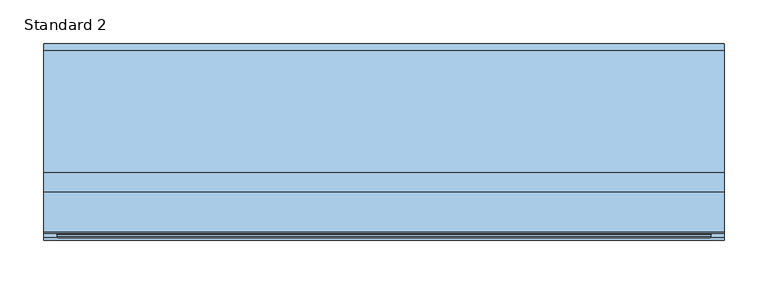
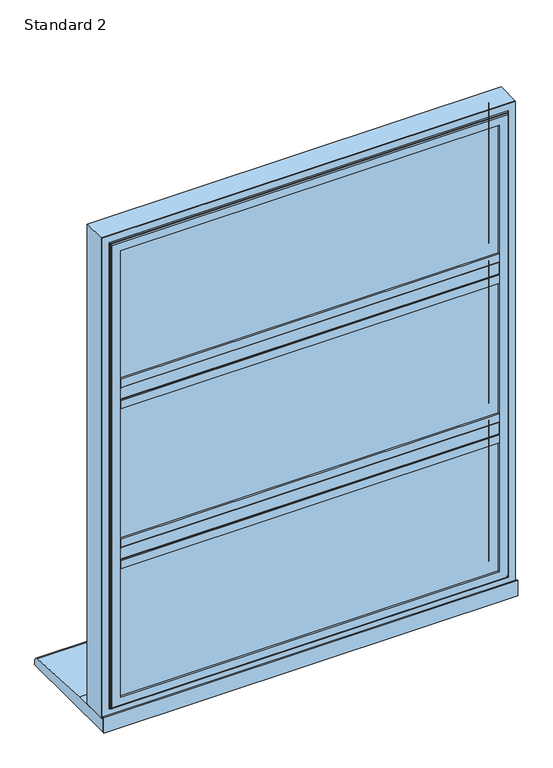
"""IFC4 building model written with IfcOpenShell, lengths in millimetres: window geometry, SMARTS_AlithermHeritage : Standard 2."""

from ifc_helpers import new_model, si_unit, point, frame, frame_2d, origin, place, context, project, spatial, polyline, circle_curve, ellipse_curve, trimmed, segment, composite_curve, outline, extrude, faceted_brep, source, transform, mapped, element, save
from ifc_brep_helpers import plane_surface, cylinder_surface, revolved_surface, advanced_brep


def standard_2_651a060c(model_context):
    return source(origin(), model_context, "Body", "SolidModel", [
        extrude(outline(polyline([(372.3058544, 95.2798432), (372.3058544, 47.279476), (-372.3058544, 47.279476), (-372.3058544, 95.2798432), (372.3058544, 95.2798432)])), frame((0.0, 0.0, 939.6391878), z_axis=(0.0, 0.0, 1.0), x_axis=(1.0, 0.0, 0.0)), (0.0, 0.0, 1.0), 27.3882911),
        extrude(outline(composite_curve([segment(polyline([(47.279476, 924.3333333), (43.2798432, 924.3333333), (43.2798432, 940.3333333)]), True, "CONTINUOUS"), segment(trimmed(circle_curve(frame_2d((44.2798432, 940.3333333)), 1.0), [point((43.2798432, 940.3333333))], [point((44.2798432, 941.3333333))], False, "CARTESIAN"), True, "CONTINUOUS"), segment(polyline([(44.2798432, 941.3333333), (45.7798432, 941.3333333), (45.7798432, 965.3333333), (44.2798432, 965.3333333)]), True, "CONTINUOUS"), segment(trimmed(circle_curve(frame_2d((44.2798432, 966.3333333)), 1.0), [point((44.2798432, 965.3333333))], [point((43.2798432, 966.3333333))], False, "CARTESIAN"), True, "CONTINUOUS"), segment(polyline([(43.2798432, 966.3333333), (43.2798432, 982.3333333), (47.279476, 982.3333333), (47.279476, 924.3333333)]), True, "CONTINUOUS")], self_intersect=False)), frame((-357.0, 0.0, 0.0), z_axis=(1.0, 0.0, 0.0), x_axis=(0.0, 1.0, 0.0)), (0.0, 0.0, 1.0), 714.0),
        extrude(outline(polyline([(372.3058544, 95.2798432), (372.3058544, 47.279476), (-372.3058544, 47.279476), (-372.3058544, 95.2798432), (372.3058544, 95.2798432)])), frame((0.0, 0.0, 1257.9725211), z_axis=(0.0, 0.0, 1.0), x_axis=(1.0, 0.0, 0.0)), (0.0, 0.0, 1.0), 27.3882911),
        extrude(outline(composite_curve([segment(polyline([(47.279476, 1242.6666667), (43.2798432, 1242.6666667), (43.2798432, 1258.6666667)]), True, "CONTINUOUS"), segment(trimmed(circle_curve(frame_2d((44.2798432, 1258.6666667)), 1.0), [point((43.2798432, 1258.6666667))], [point((44.2798432, 1259.6666667))], False, "CARTESIAN"), True, "CONTINUOUS"), segment(polyline([(44.2798432, 1259.6666667), (45.7798432, 1259.6666667), (45.7798432, 1283.6666667), (44.2798432, 1283.6666667)]), True, "CONTINUOUS"), segment(trimmed(circle_curve(frame_2d((44.2798432, 1284.6666667)), 1.0), [point((44.2798432, 1283.6666667))], [point((43.2798432, 1284.6666667))], False, "CARTESIAN"), True, "CONTINUOUS"), segment(polyline([(43.2798432, 1284.6666667), (43.2798432, 1300.6666667), (47.279476, 1300.6666667), (47.279476, 1242.6666667)]), True, "CONTINUOUS")], self_intersect=False)), frame((-357.0, 0.0, 0.0), z_axis=(1.0, 0.0, 0.0), x_axis=(0.0, 1.0, 0.0)), (0.0, 0.0, 1.0), 714.0),
        extrude(outline(polyline([(-367.0, 75.2798432), (367.0, 75.2798432), (367.0, 71.2798432), (-367.0, 71.2798432), (-367.0, 75.2798432)])), frame((0.0, 0.0, 658.0), z_axis=(0.0, 0.0, 1.0), x_axis=(1.0, 0.0, 0.0)), (0.0, 0.0, 1.0), 276.3333333),
        extrude(outline(polyline([(-367.0, 55.2798432), (367.0, 55.2798432), (367.0, 51.2798432), (-367.0, 51.2798432), (-367.0, 55.2798432)])), frame((0.0, 0.0, 658.0), z_axis=(0.0, 0.0, 1.0), x_axis=(1.0, 0.0, 0.0)), (0.0, 0.0, 1.0), 276.3333333),
        extrude(outline(polyline([(934.3333333, -367.0), (658.0, -367.0), (658.0, 367.0), (934.3333333, 367.0), (934.3333333, -367.0)]), holes=[polyline([(924.3333333, 357.0), (668.0, 357.0), (668.0, -357.0), (924.3333333, -357.0), (924.3333333, 357.0)])]), frame((0.0, 55.2798432, 0.0), z_axis=(0.0, 1.0, 0.0), x_axis=(0.0, 0.0, 1.0)), (0.0, 0.0, 1.0), 16.0),
        faceted_brep([(366.8148849, 95.2798432, 934.1482182), (357.0, 78.2798098, 924.3333333), (-357.0, 78.2798098, 924.3333333), (-366.8148849, 95.2798432, 934.1482182), (372.3702676, 78.2798098, 939.7036009), (372.3702676, 95.2798432, 939.7036009), (-372.3702676, 95.2798432, 939.7036009), (-372.3702676, 78.2798098, 939.7036009), (-372.3702676, 78.2798098, 652.6297324), (-372.3702676, 95.2798432, 652.6297324), (372.3702676, 95.2798432, 652.6297324), (372.3702676, 78.2798098, 652.6297324), (-366.8148849, 95.2798432, 658.1851151), (366.8148849, 95.2798432, 658.1851151), (357.0, 78.2798098, 668.0), (-357.0, 78.2798098, 668.0)], [[[0, 1, 2, 3]], [[4, 5, 6, 7]], [[8, 9, 10, 11]], [[5, 10, 9, 6], [3, 12, 13, 0]], [[7, 8, 11, 4], [1, 14, 15, 2]], [[3, 2, 15, 12]], [[7, 6, 9, 8]], [[12, 15, 14, 13]], [[13, 14, 1, 0]], [[11, 10, 5, 4]]]),
        extrude(outline(polyline([(-367.0, 75.2798432), (367.0, 75.2798432), (367.0, 71.2798432), (-367.0, 71.2798432), (-367.0, 75.2798432)])), frame((0.0, 0.0, 972.3333333), z_axis=(0.0, 0.0, 1.0), x_axis=(1.0, 0.0, 0.0)), (0.0, 0.0, 1.0), 280.3333333),
        extrude(outline(polyline([(-367.0, 55.2798432), (367.0, 55.2798432), (367.0, 51.2798432), (-367.0, 51.2798432), (-367.0, 55.2798432)])), frame((0.0, 0.0, 972.3333333), z_axis=(0.0, 0.0, 1.0), x_axis=(1.0, 0.0, 0.0)), (0.0, 0.0, 1.0), 280.3333333),
        extrude(outline(polyline([(1252.6666667, -367.0), (972.3333333, -367.0), (972.3333333, 367.0), (1252.6666667, 367.0), (1252.6666667, -367.0)]), holes=[polyline([(1242.6666667, 357.0), (982.3333333, 357.0), (982.3333333, -357.0), (1242.6666667, -357.0), (1242.6666667, 357.0)])]), frame((0.0, 55.2798432, 0.0), z_axis=(0.0, 1.0, 0.0), x_axis=(0.0, 0.0, 1.0)), (0.0, 0.0, 1.0), 16.0),
        faceted_brep([(366.8148849, 95.2798432, 1252.4815515), (357.0, 78.2798098, 1242.6666667), (-357.0, 78.2798098, 1242.6666667), (-366.8148849, 95.2798432, 1252.4815515), (372.3702676, 78.2798098, 1258.0369343), (372.3702676, 95.2798432, 1258.0369343), (-372.3702676, 95.2798432, 1258.0369343), (-372.3702676, 78.2798098, 1258.0369343), (-372.3702676, 78.2798098, 966.9630657), (-372.3702676, 95.2798432, 966.9630657), (372.3702676, 95.2798432, 966.9630657), (372.3702676, 78.2798098, 966.9630657), (-366.8148849, 95.2798432, 972.5184485), (366.8148849, 95.2798432, 972.5184485), (357.0, 78.2798098, 982.3333333), (-357.0, 78.2798098, 982.3333333)], [[[0, 1, 2, 3]], [[4, 5, 6, 7]], [[8, 9, 10, 11]], [[5, 10, 9, 6], [3, 12, 13, 0]], [[7, 8, 11, 4], [1, 14, 15, 2]], [[3, 2, 15, 12]], [[7, 6, 9, 8]], [[12, 15, 14, 13]], [[13, 14, 1, 0]], [[11, 10, 5, 4]]]),
        extrude(outline(polyline([(1590.0, 390.0), (1590.0, -390.0), (635.0, -390.0), (635.0, 390.0), (1590.0, 390.0)]), holes=[polyline([(652.7000182, 372.2999818), (652.7000182, -372.2999818), (1572.2999818, -372.2999818), (1572.2999818, 372.2999818), (652.7000182, 372.2999818)])]), frame((0.0, 50.279857, 0.0), z_axis=(0.0, 1.0, 0.0), x_axis=(0.0, 0.0, 1.0)), (0.0, 0.0, 1.0), 44.9999962),
        advanced_brep(
        [(357.0, 43.2798432, 1557.0), (357.0, 47.2798432, 1557.0), (357.0, 47.2798432, 668.0), (357.0, 43.2798432, 668.0), (390.0, 50.279857, 1590.0), (390.0, 48.279857, 1590.0), (390.0, 48.279857, 635.0), (390.0, 50.279857, 635.0), (372.4999818, 43.2798432, 1572.4999818), (-372.4999818, 43.2798432, 1572.4999818), (-372.4999818, 43.2798432, 652.5000182), (372.4999818, 43.2798432, 652.5000182), (-357.0, 43.2798432, 668.0), (-357.0, 43.2798432, 1557.0), (-390.0, 50.279857, 1590.0), (-390.0, 48.279857, 1590.0), (-390.0, 50.279857, 635.0), (372.2999818, 50.279857, 1572.2999818), (-372.2999818, 50.279857, 1572.2999818), (-372.2999818, 50.279857, 652.7000182), (372.2999818, 50.279857, 652.7000182), (-357.0, 47.2798432, 1557.0), (-357.0, 47.2798432, 668.0), (-390.0, 48.279857, 635.0), (-372.2999818, 47.2798432, 1572.2999818), (372.2999818, 47.2798432, 1572.2999818), (372.2999818, 47.2798432, 652.7000182), (374.4999818, 46.779857, 650.5000182), (374.4999818, 45.2798432, 650.5000182), (-374.4999818, 45.2798432, 650.5000182), (-374.4999818, 46.779857, 650.5000182), (374.4999818, 46.779857, 1574.4999818), (374.4999818, 45.2798432, 1574.4999818), (-372.2999818, 47.2798432, 652.7000182), (-374.4999818, 45.2798432, 1574.4999818), (-374.4999818, 46.779857, 1574.4999818), (375.9999818, 48.279857, 1575.9999818), (375.9999818, 48.279857, 649.0000182), (-375.9999818, 48.279857, 649.0000182), (-375.9999818, 48.279857, 1575.9999818)],
        [
            (0, 1),
            (1, 2),
            (2, 3),
            (3, 0),
            (4, 5),
            (5, 6),
            (6, 7),
            (7, 4),
            (8, 9),
            (9, 10),
            (10, 11),
            (11, 8),
            (3, 12),
            (12, 13),
            (13, 0),
            (14, 15),
            (15, 5),
            (4, 14),
            (7, 16),
            (16, 14),
            (17, 18),
            (18, 19),
            (19, 20),
            (20, 17),
            (13, 21),
            (21, 1),
            (2, 22),
            (22, 12),
            (22, 21),
            (6, 23),
            (23, 16),
            (23, 15),
            (24, 18),
            (17, 25),
            (25, 24),
            (20, 26),
            (26, 25),
            (27, 28),
            (28, 29),
            (29, 30),
            (30, 27),
            (31, 32),
            (32, 28),
            (27, 31),
            (19, 33),
            (33, 26),
            (24, 33),
            (29, 34),
            (34, 35),
            (35, 30),
            (34, 32),
            (31, 35),
            (36, 31, ellipse_curve(frame((375.9999818, 46.779857, 1575.9999818), z_axis=(-0.7071067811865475, 0.0, 0.7071067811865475), x_axis=(-0.7071067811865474, 0.0, -0.7071067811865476)), 2.1213203, 1.5)),
            (27, 37, ellipse_curve(frame((375.9999818, 46.779857, 649.0000182), z_axis=(-0.7071067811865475, 0.0, -0.7071067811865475), x_axis=(0.7071067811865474, 0.0, -0.7071067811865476)), 2.1213203, 1.5)),
            (37, 36),
            (30, 38, ellipse_curve(frame((-375.9999818, 46.779857, 649.0000182), z_axis=(-0.7071067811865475, 0.0, 0.7071067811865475), x_axis=(-0.7071067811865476, 0.0, -0.7071067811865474)), 2.1213203, 1.5)),
            (38, 37),
            (35, 39, ellipse_curve(frame((-375.9999818, 46.779857, 1575.9999818), z_axis=(0.7071067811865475, 0.0, 0.7071067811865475), x_axis=(-0.7071067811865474, 0.0, 0.7071067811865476)), 2.1213203, 1.5)),
            (39, 38),
            (36, 39),
            (32, 8, ellipse_curve(frame((372.4999818, 45.2798432, 1572.4999818), z_axis=(0.7071067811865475, 0.0, -0.7071067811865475), x_axis=(0.7071067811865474, 0.0, 0.7071067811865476)), 2.8284271, 2.0)),
            (11, 28, ellipse_curve(frame((372.4999818, 45.2798432, 652.5000182), z_axis=(0.7071067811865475, 0.0, 0.7071067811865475), x_axis=(-0.7071067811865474, 0.0, 0.7071067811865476)), 2.8284271, 2.0)),
            (10, 29, ellipse_curve(frame((-372.4999818, 45.2798432, 652.5000182), z_axis=(0.7071067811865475, 0.0, -0.7071067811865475), x_axis=(0.7071067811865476, 0.0, 0.7071067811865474)), 2.8284271, 2.0)),
            (9, 34, ellipse_curve(frame((-372.4999818, 45.2798432, 1572.4999818), z_axis=(-0.7071067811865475, 0.0, -0.7071067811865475), x_axis=(0.7071067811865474, 0.0, -0.7071067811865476)), 2.8284271, 2.0)),
        ],
        [
            plane_surface(frame((357.0, 47.2798432, 1557.0), z_axis=(-1.0, 0.0, 0.0), x_axis=(0.0, 0.0, -1.0))),
            plane_surface(frame((390.0, 48.279857, 1590.0), z_axis=(1.0, 0.0, 0.0), x_axis=(0.0, 0.0, -1.0))),
            plane_surface(frame((-357.0, 43.2798432, 1557.0), z_axis=(0.0, -1.0, 0.0), x_axis=(1.0, 0.0, 0.0))),
            plane_surface(frame((-390.0, 48.279857, 1590.0), z_axis=(0.0, 0.0, 1.0), x_axis=(1.0, 0.0, 0.0))),
            plane_surface(frame((-390.0, 50.279857, 1590.0), z_axis=(0.0, 1.0, 0.0), x_axis=(1.0, 0.0, 0.0))),
            plane_surface(frame((-357.0, 47.2798432, 1557.0), z_axis=(0.0, 0.0, -1.0), x_axis=(1.0, 0.0, 0.0))),
            plane_surface(frame((357.0, 47.2798432, 668.0), z_axis=(0.0, 0.0, 1.0), x_axis=(-1.0, 0.0, 0.0))),
            plane_surface(frame((-357.0, 47.2798432, 668.0), z_axis=(1.0, 0.0, 0.0), x_axis=(0.0, 0.0, 1.0))),
            plane_surface(frame((390.0, 48.279857, 635.0), z_axis=(0.0, 0.0, -1.0), x_axis=(-1.0, 0.0, 0.0))),
            plane_surface(frame((-390.0, 48.279857, 635.0), z_axis=(-1.0, 0.0, 0.0), x_axis=(0.0, 0.0, 1.0))),
            plane_surface(frame((-372.2999818, 50.279857, 1572.2999818), z_axis=(0.0, 0.0, -1.0), x_axis=(1.0, 0.0, 0.0))),
            plane_surface(frame((372.2999818, 50.279857, 1572.2999818), z_axis=(-1.0, 0.0, 0.0), x_axis=(0.0, 0.0, -1.0))),
            plane_surface(frame((374.4999818, 45.2798432, 650.5000182), z_axis=(0.0, 0.0, -1.0), x_axis=(-1.0, 0.0, 0.0))),
            plane_surface(frame((374.4999818, 45.2798432, 1574.4999818), z_axis=(1.0, 0.0, 0.0), x_axis=(0.0, 0.0, -1.0))),
            plane_surface(frame((372.2999818, 50.279857, 652.7000182), z_axis=(0.0, 0.0, 1.0), x_axis=(-1.0, 0.0, 0.0))),
            plane_surface(frame((-372.2999818, 50.279857, 652.7000182), z_axis=(1.0, 0.0, 0.0), x_axis=(0.0, 0.0, 1.0))),
            plane_surface(frame((-374.4999818, 45.2798432, 650.5000182), z_axis=(-1.0, 0.0, 0.0), x_axis=(0.0, 0.0, 1.0))),
            plane_surface(frame((-372.2999818, 47.2798432, 1572.2999818), z_axis=(0.0, 1.0, 0.0), x_axis=(1.0, 0.0, 0.0))),
            plane_surface(frame((-374.4999818, 45.2798432, 1574.4999818), z_axis=(0.0, 0.0, 1.0), x_axis=(1.0, 0.0, 0.0))),
            revolved_surface(polyline([(374.4999818, 46.779857, 647.5000182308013), (374.4999818, 46.779857, 1577.4999817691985)]), (375.9999818, 46.779857, 1590.0), (0.0, 0.0, -1.0)),
            revolved_surface(polyline([(-377.4999817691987, 46.779857, 650.5000182), (377.49998176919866, 46.779857, 650.5000182)]), (390.0, 46.779857, 649.0000182), (-1.0, 0.0, 0.0)),
            revolved_surface(polyline([(-374.4999818, 46.779857, 1577.4999817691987), (-374.4999818, 46.779857, 647.5000182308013)]), (-375.9999818, 46.779857, 635.0), (0.0, 0.0, 1.0)),
            revolved_surface(polyline([(377.4999817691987, 46.779857, 1574.4999818), (-377.49998176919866, 46.779857, 1574.4999818)]), (-390.0, 46.779857, 1575.9999818), (1.0, 0.0, 0.0)),
            plane_surface(frame((-375.9999818, 48.279857, 1575.9999818), z_axis=(0.0, -1.0, 0.0), x_axis=(1.0, 0.0, 0.0))),
            cylinder_surface(frame((372.4999818, 45.2798432, 1590.0), z_axis=(0.0, 0.0, 1.0), x_axis=(-1.0, 0.0, 0.0)), 2.0),
            cylinder_surface(frame((390.0, 45.2798432, 652.5000182), z_axis=(1.0, 0.0, 0.0), x_axis=(0.0, 0.0, 1.0)), 2.0),
            cylinder_surface(frame((-372.4999818, 45.2798432, 635.0), z_axis=(0.0, 0.0, -1.0), x_axis=(1.0, 0.0, 0.0)), 2.0),
            cylinder_surface(frame((-390.0, 45.2798432, 1572.4999818), z_axis=(-1.0, 0.0, 0.0), x_axis=(0.0, 0.0, -1.0)), 2.0),
        ],
        [
            (0, [[1, 2, 3, 4]]),
            (1, [[5, 6, 7, 8]]),
            (2, [[9, 10, 11, 12], [13, 14, 15, -4]]),
            (3, [[16, 17, -5, 18]]),
            (4, [[19, 20, -18, -8], [21, 22, 23, 24]]),
            (5, [[25, 26, -1, -15]]),
            (6, [[-3, 27, 28, -13]]),
            (7, [[-28, 29, -25, -14]]),
            (8, [[-7, 30, 31, -19]]),
            (9, [[-31, 32, -16, -20]]),
            (10, [[33, -21, 34, 35]]),
            (11, [[-34, -24, 36, 37]]),
            (12, [[38, 39, 40, 41]]),
            (13, [[42, 43, -38, 44]]),
            (14, [[-36, -23, 45, 46]]),
            (15, [[-45, -22, -33, 47]]),
            (16, [[-40, 48, 49, 50]]),
            (17, [[-46, -47, -35, -37], [-26, -29, -27, -2]]),
            (18, [[-49, 51, -42, 52]]),
            (19, [[53, -44, 54, 55]]),
            (20, [[-54, -41, 56, 57]]),
            (21, [[-56, -50, 58, 59]]),
            (22, [[-58, -52, -53, 60]]),
            (23, [[-17, -32, -30, -6], [-57, -59, -60, -55]]),
            (24, [[61, -12, 62, -43]]),
            (25, [[-62, -11, 63, -39]]),
            (26, [[-63, -10, 64, -48]]),
            (27, [[-64, -9, -61, -51]]),
        ],
    ),
        extrude(outline(polyline([(-367.0, 75.2798432), (367.0, 75.2798432), (367.0, 71.2798432), (-367.0, 71.2798432), (-367.0, 75.2798432)])), frame((0.0, 0.0, 1290.6666667), z_axis=(0.0, 0.0, 1.0), x_axis=(1.0, 0.0, 0.0)), (0.0, 0.0, 1.0), 276.3333333),
        extrude(outline(polyline([(-367.0, 55.2798432), (367.0, 55.2798432), (367.0, 51.2798432), (-367.0, 51.2798432), (-367.0, 55.2798432)])), frame((0.0, 0.0, 1290.6666667), z_axis=(0.0, 0.0, 1.0), x_axis=(1.0, 0.0, 0.0)), (0.0, 0.0, 1.0), 276.3333333),
        extrude(outline(polyline([(1567.0, -367.0), (1290.6666667, -367.0), (1290.6666667, 367.0), (1567.0, 367.0), (1567.0, -367.0)]), holes=[polyline([(1557.0, 357.0), (1300.6666667, 357.0), (1300.6666667, -357.0), (1557.0, -357.0), (1557.0, 357.0)])]), frame((0.0, 55.2798432, 0.0), z_axis=(0.0, 1.0, 0.0), x_axis=(0.0, 0.0, 1.0)), (0.0, 0.0, 1.0), 16.0),
        faceted_brep([(366.8148849, 95.2798432, 1566.8148849), (357.0, 78.2798098, 1557.0), (-357.0, 78.2798098, 1557.0), (-366.8148849, 95.2798432, 1566.8148849), (372.3702676, 78.2798098, 1572.3702676), (372.3702676, 95.2798432, 1572.3702676), (-372.3702676, 95.2798432, 1572.3702676), (-372.3702676, 78.2798098, 1572.3702676), (-372.3702676, 78.2798098, 1285.2963991), (-372.3702676, 95.2798432, 1285.2963991), (372.3702676, 95.2798432, 1285.2963991), (372.3702676, 78.2798098, 1285.2963991), (-366.8148849, 95.2798432, 1290.8517818), (366.8148849, 95.2798432, 1290.8517818), (357.0, 78.2798098, 1300.6666667), (-357.0, 78.2798098, 1300.6666667)], [[[0, 1, 2, 3]], [[4, 5, 6, 7]], [[8, 9, 10, 11]], [[5, 10, 9, 6], [3, 12, 13, 0]], [[7, 8, 11, 4], [1, 14, 15, 2]], [[3, 2, 15, 12]], [[7, 6, 9, 8]], [[12, 15, 14, 13]], [[13, 14, 1, 0]], [[11, 10, 5, 4]]]),
        extrude(outline(polyline([(390.0, 43.2798432), (390.0, 40.7798432), (-390.0, 40.7798432), (-390.0, 43.2798432), (390.0, 43.2798432)])), frame((0.0, 0.0, 610.0), z_axis=(0.0, 0.0, 1.0), x_axis=(1.0, 0.0, 0.0)), (0.0, 0.0, 1.0), 31.0),
        extrude(outline(composite_curve([segment(polyline([(265.7798432, 610.0), (43.2798432, 610.0), (43.2798432, 635.0), (118.7798432, 635.0), (258.4770891, 625.9276664)]), True, "CONTINUOUS"), segment(trimmed(circle_curve(frame_2d((257.7798432, 617.9581088)), 8.0), [point((258.4770891, 625.9276664))], [point((265.7798432, 617.9581088))], False, "CARTESIAN"), True, "CONTINUOUS"), segment(polyline([(265.7798432, 617.9581088), (265.7798432, 610.0)]), True, "CONTINUOUS")], self_intersect=False)), frame((-390.0, 0.0, 0.0), z_axis=(1.0, 0.0, 0.0), x_axis=(0.0, 1.0, 0.0)), (0.0, 0.0, 1.0), 780.0),
    ])


if __name__ == "__main__":
    model = new_model("IFC4")
    model_context = context("Model", 3, world=origin())
    ifc_project = project(units=[si_unit("LENGTHUNIT", "METRE", prefix="MILLI")], contexts=[model_context])
    site = spatial("IfcSite", under=ifc_project)
    building = spatial("IfcBuilding", under=site)
    placement = place(None, origin())
    standard_2_shape = standard_2_651a060c(model_context)
    element("IfcWindow", 1, ObjectType="SMARTS_AlithermHeritage : Standard 2", at=placement, inside=building, context=model_context, shape_type="MappedRepresentation", body=[
        mapped(standard_2_shape, transform((0.0, 0.0, 0.0), x_axis=(1.0, 0.0, 0.0), y_axis=(0.0, 1.0, 0.0), z_axis=(0.0, 0.0, 1.0))),
    ])
    save(model, "model.ifc")
